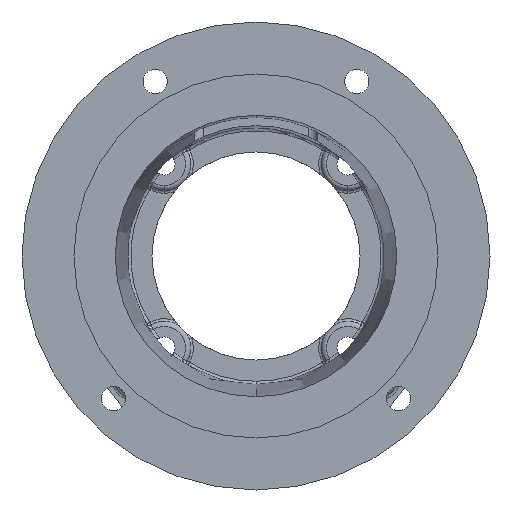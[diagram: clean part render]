
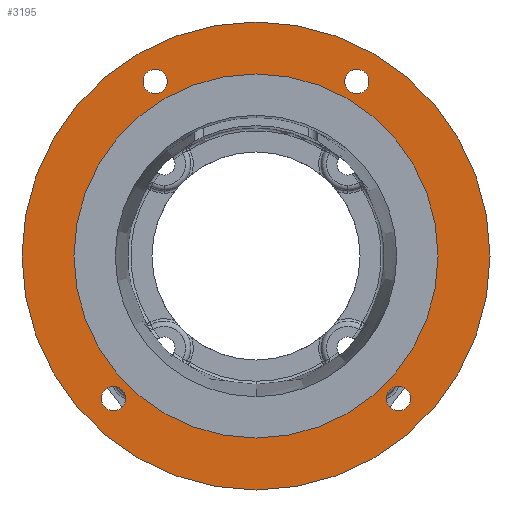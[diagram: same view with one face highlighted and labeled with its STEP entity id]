
A CAD part, front view. The second image highlights one B-rep face of the part: STEP entity #3195.
In plain terms, the highlighted planar face has unit normal (0, -1, 0).
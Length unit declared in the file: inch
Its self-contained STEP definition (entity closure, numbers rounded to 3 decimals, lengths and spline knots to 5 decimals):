
#204 = CARTESIAN_POINT ( 'NONE',  ( 2.74004, 0., -2.50566 ) ) ;
#218 = CIRCLE ( 'NONE', #6252, 0.23438 ) ;
#244 = AXIS2_PLACEMENT_3D ( 'NONE', #9625, #4338, #10525 ) ;
#321 = VERTEX_POINT ( 'NONE', #9962 ) ;
#352 = EDGE_CURVE ( 'NONE', #548, #1107, #923, .T. ) ;
#470 = VERTEX_POINT ( 'NONE', #9314 ) ;
#503 = DIRECTION ( 'NONE',  ( 0., -1., 0. ) ) ;
#548 = VERTEX_POINT ( 'NONE', #8993 ) ;
#642 = ORIENTED_EDGE ( 'NONE', *, *, #7068, .F. ) ;
#693 = CARTESIAN_POINT ( 'NONE',  ( -2.74004, 0., -2.50566 ) ) ;
#755 = EDGE_LOOP ( 'NONE', ( #11446, #9595 ) ) ;
#849 = AXIS2_PLACEMENT_3D ( 'NONE', #1428, #7634, #2313 ) ;
#923 = CIRCLE ( 'NONE', #5295, 3.501 ) ;
#1107 = VERTEX_POINT ( 'NONE', #4988 ) ;
#1274 = CARTESIAN_POINT ( 'NONE',  ( 2.74004, 0., -2.74004 ) ) ;
#1295 = DIRECTION ( 'NONE',  ( 0., 0., -1. ) ) ;
#1328 = DIRECTION ( 'NONE',  ( 0., -1., 0. ) ) ;
#1428 = CARTESIAN_POINT ( 'NONE',  ( -2.74004, 0., -2.74004 ) ) ;
#1441 = CARTESIAN_POINT ( 'NONE',  ( 0., 0., 0. ) ) ;
#1481 = DIRECTION ( 'NONE',  ( 0., -1., 0. ) ) ;
#1791 = CIRCLE ( 'NONE', #849, 0.23438 ) ;
#1871 = FACE_OUTER_BOUND ( 'NONE', #10199, .T. ) ;
#2028 = DIRECTION ( 'NONE',  ( 0., 0., -1. ) ) ;
#2107 = DIRECTION ( 'NONE',  ( 0., -1., 0. ) ) ;
#2145 = CARTESIAN_POINT ( 'NONE',  ( -1.9375, 0., 3.35585 ) ) ;
#2148 = DIRECTION ( 'NONE',  ( 0., 0., -1. ) ) ;
#2263 = CIRCLE ( 'NONE', #10114, 0.23438 ) ;
#2313 = DIRECTION ( 'NONE',  ( 0., 0., -1. ) ) ;
#2345 = CIRCLE ( 'NONE', #6895, 0.23438 ) ;
#2385 = EDGE_CURVE ( 'NONE', #4882, #2766, #6639, .T. ) ;
#2417 = ORIENTED_EDGE ( 'NONE', *, *, #7033, .F. ) ;
#2561 = ORIENTED_EDGE ( 'NONE', *, *, #4368, .F. ) ;
#2766 = VERTEX_POINT ( 'NONE', #8486 ) ;
#2871 = ORIENTED_EDGE ( 'NONE', *, *, #352, .F. ) ;
#3195 = ADVANCED_FACE ( 'NONE', ( #10081, #11296, #8940, #6625, #4258, #1871 ), #7257, .F. ) ;
#3537 = VERTEX_POINT ( 'NONE', #4200 ) ;
#3581 = CIRCLE ( 'NONE', #5419, 0.23438 ) ;
#3749 = AXIS2_PLACEMENT_3D ( 'NONE', #2145, #2107, #2028 ) ;
#3756 = DIRECTION ( 'NONE',  ( 0., 0., -1. ) ) ;
#3759 = CIRCLE ( 'NONE', #11460, 4.5 ) ;
#3772 = DIRECTION ( 'NONE',  ( 0., -1., 0. ) ) ;
#3776 = CARTESIAN_POINT ( 'NONE',  ( 0., 0., 0. ) ) ;
#4015 = CARTESIAN_POINT ( 'NONE',  ( 0., 0., -4.5 ) ) ;
#4200 = CARTESIAN_POINT ( 'NONE',  ( 1.9375, 0., 3.12147 ) ) ;
#4258 = FACE_BOUND ( 'NONE', #7642, .T. ) ;
#4338 = DIRECTION ( 'NONE',  ( 0., -1., 0. ) ) ;
#4368 = EDGE_CURVE ( 'NONE', #4498, #6864, #10332, .T. ) ;
#4387 = CARTESIAN_POINT ( 'NONE',  ( -2.74004, 0., -2.74004 ) ) ;
#4498 = VERTEX_POINT ( 'NONE', #11279 ) ;
#4506 = EDGE_LOOP ( 'NONE', ( #11011, #2417 ) ) ;
#4729 = EDGE_LOOP ( 'NONE', ( #642, #11418 ) ) ;
#4882 = VERTEX_POINT ( 'NONE', #4015 ) ;
#4925 = EDGE_CURVE ( 'NONE', #1107, #548, #5564, .T. ) ;
#4988 = CARTESIAN_POINT ( 'NONE',  ( 0., 0., -3.501 ) ) ;
#5270 = CARTESIAN_POINT ( 'NONE',  ( 2.74004, 0., -2.74004 ) ) ;
#5294 = DIRECTION ( 'NONE',  ( 0., 0., -1. ) ) ;
#5295 = AXIS2_PLACEMENT_3D ( 'NONE', #9767, #9764, #9752 ) ;
#5419 = AXIS2_PLACEMENT_3D ( 'NONE', #6806, #1481, #7689 ) ;
#5564 = CIRCLE ( 'NONE', #10436, 3.501 ) ;
#5672 = AXIS2_PLACEMENT_3D ( 'NONE', #5861, #503, #6730 ) ;
#5861 = CARTESIAN_POINT ( 'NONE',  ( 1.9375, 0., 3.35585 ) ) ;
#5996 = ORIENTED_EDGE ( 'NONE', *, *, #2385, .T. ) ;
#6049 = EDGE_CURVE ( 'NONE', #2766, #4882, #3759, .T. ) ;
#6164 = DIRECTION ( 'NONE',  ( 0., 0., -1. ) ) ;
#6252 = AXIS2_PLACEMENT_3D ( 'NONE', #5270, #11431, #6164 ) ;
#6478 = CARTESIAN_POINT ( 'NONE',  ( -1.9375, 0., 3.12147 ) ) ;
#6625 = FACE_BOUND ( 'NONE', #4506, .T. ) ;
#6629 = DIRECTION ( 'NONE',  ( 0., 0., -1. ) ) ;
#6639 = CIRCLE ( 'NONE', #9663, 4.5 ) ;
#6730 = DIRECTION ( 'NONE',  ( 0., 0., -1. ) ) ;
#6806 = CARTESIAN_POINT ( 'NONE',  ( -1.9375, 0., 3.35585 ) ) ;
#6864 = VERTEX_POINT ( 'NONE', #6478 ) ;
#6895 = AXIS2_PLACEMENT_3D ( 'NONE', #4387, #10579, #5294 ) ;
#6927 = ORIENTED_EDGE ( 'NONE', *, *, #6049, .T. ) ;
#7033 = EDGE_CURVE ( 'NONE', #9483, #321, #1791, .T. ) ;
#7068 = EDGE_CURVE ( 'NONE', #3537, #7132, #10664, .T. ) ;
#7132 = VERTEX_POINT ( 'NONE', #10594 ) ;
#7257 = PLANE ( 'NONE',  #9593 ) ;
#7316 = CARTESIAN_POINT ( 'NONE',  ( -4.5, 0., 0. ) ) ;
#7376 = CIRCLE ( 'NONE', #5672, 0.23438 ) ;
#7433 = DIRECTION ( 'NONE',  ( 0., 0., 1. ) ) ;
#7466 = DIRECTION ( 'NONE',  ( 0., -1., 0. ) ) ;
#7634 = DIRECTION ( 'NONE',  ( 0., -1., 0. ) ) ;
#7642 = EDGE_LOOP ( 'NONE', ( #9328, #2871 ) ) ;
#7658 = DIRECTION ( 'NONE',  ( 0., 1., 0. ) ) ;
#7689 = DIRECTION ( 'NONE',  ( 0., 0., -1. ) ) ;
#8486 = CARTESIAN_POINT ( 'NONE',  ( 0., 0., 4.5 ) ) ;
#8511 = EDGE_CURVE ( 'NONE', #321, #9483, #2345, .T. ) ;
#8940 = FACE_BOUND ( 'NONE', #755, .T. ) ;
#8993 = CARTESIAN_POINT ( 'NONE',  ( 0., 0., 3.501 ) ) ;
#9182 = EDGE_CURVE ( 'NONE', #9355, #470, #218, .T. ) ;
#9314 = CARTESIAN_POINT ( 'NONE',  ( 2.74004, 0., -2.97441 ) ) ;
#9328 = ORIENTED_EDGE ( 'NONE', *, *, #4925, .F. ) ;
#9355 = VERTEX_POINT ( 'NONE', #204 ) ;
#9433 = EDGE_CURVE ( 'NONE', #6864, #4498, #3581, .T. ) ;
#9483 = VERTEX_POINT ( 'NONE', #693 ) ;
#9593 = AXIS2_PLACEMENT_3D ( 'NONE', #7316, #7658, #7433 ) ;
#9595 = ORIENTED_EDGE ( 'NONE', *, *, #9182, .F. ) ;
#9625 = CARTESIAN_POINT ( 'NONE',  ( 1.9375, 0., 3.35585 ) ) ;
#9663 = AXIS2_PLACEMENT_3D ( 'NONE', #3776, #3772, #3756 ) ;
#9752 = DIRECTION ( 'NONE',  ( 0., 0., -1. ) ) ;
#9764 = DIRECTION ( 'NONE',  ( 0., -1., 0. ) ) ;
#9767 = CARTESIAN_POINT ( 'NONE',  ( 0., 0., 0. ) ) ;
#9962 = CARTESIAN_POINT ( 'NONE',  ( -2.74004, 0., -2.97441 ) ) ;
#10081 = FACE_BOUND ( 'NONE', #10750, .T. ) ;
#10114 = AXIS2_PLACEMENT_3D ( 'NONE', #1274, #7466, #2148 ) ;
#10199 = EDGE_LOOP ( 'NONE', ( #5996, #6927 ) ) ;
#10278 = EDGE_CURVE ( 'NONE', #470, #9355, #2263, .T. ) ;
#10312 = DIRECTION ( 'NONE',  ( 0., -1., 0. ) ) ;
#10332 = CIRCLE ( 'NONE', #3749, 0.23438 ) ;
#10377 = CARTESIAN_POINT ( 'NONE',  ( 0., 0., 0. ) ) ;
#10436 = AXIS2_PLACEMENT_3D ( 'NONE', #1441, #1328, #1295 ) ;
#10525 = DIRECTION ( 'NONE',  ( 0., 0., -1. ) ) ;
#10579 = DIRECTION ( 'NONE',  ( 0., -1., 0. ) ) ;
#10594 = CARTESIAN_POINT ( 'NONE',  ( 1.9375, 0., 3.59022 ) ) ;
#10664 = CIRCLE ( 'NONE', #244, 0.23438 ) ;
#10750 = EDGE_LOOP ( 'NONE', ( #11145, #2561 ) ) ;
#11011 = ORIENTED_EDGE ( 'NONE', *, *, #8511, .F. ) ;
#11145 = ORIENTED_EDGE ( 'NONE', *, *, #9433, .F. ) ;
#11279 = CARTESIAN_POINT ( 'NONE',  ( -1.9375, 0., 3.59022 ) ) ;
#11296 = FACE_BOUND ( 'NONE', #4729, .T. ) ;
#11322 = EDGE_CURVE ( 'NONE', #7132, #3537, #7376, .T. ) ;
#11418 = ORIENTED_EDGE ( 'NONE', *, *, #11322, .F. ) ;
#11431 = DIRECTION ( 'NONE',  ( 0., -1., 0. ) ) ;
#11446 = ORIENTED_EDGE ( 'NONE', *, *, #10278, .F. ) ;
#11460 = AXIS2_PLACEMENT_3D ( 'NONE', #10377, #10312, #6629 ) ;
